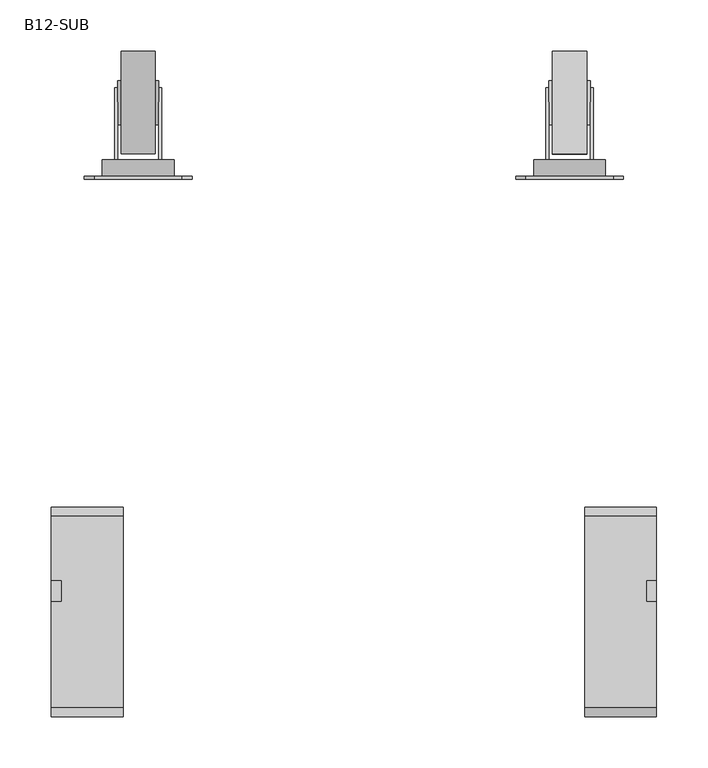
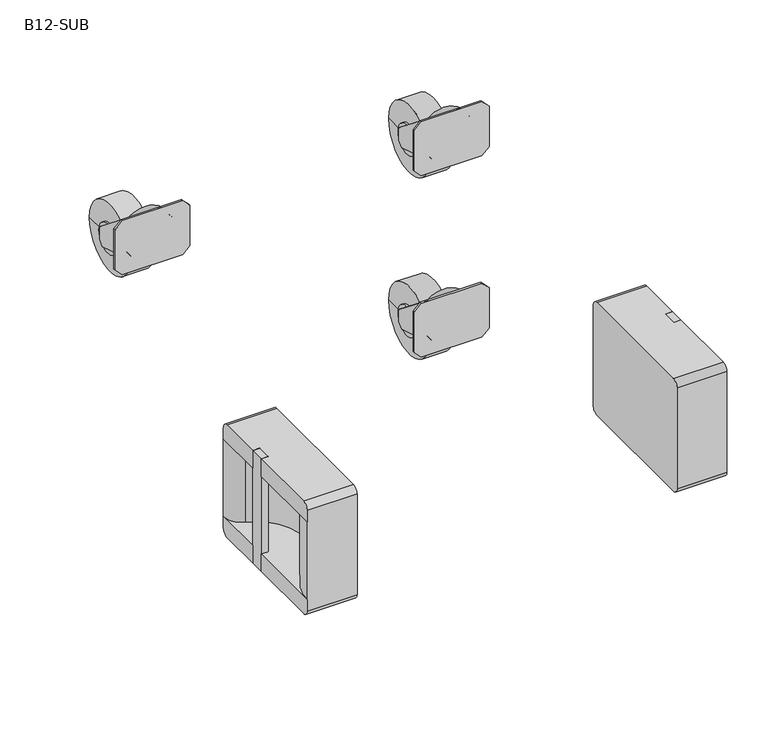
"""IFC4 building model written with IfcOpenShell, lengths in millimetres: proxy geometry, d&b B12-SUB : B12-SUB."""

from ifc_helpers import new_model, si_unit, frame, origin, place, context, project, spatial, polyline, circle_curve, outline, extrude, source, transform, mapped, element, save
from ifc_brep_helpers import plane_surface, cylinder_surface, revolved_surface, advanced_brep


def b12_sub_ed2cee65(model_context):
    return source(origin(), model_context, "Body", "SolidModel", [
        advanced_brep(
        [(2745.3228617, 655.2505973, 364.999962), (2733.3228617, 655.2505973, 338.6181501), (2733.3228617, 655.2505973, 391.0781491), (2730.3228617, 655.2505973, 391.0781491), (2730.3228617, 655.2505973, 336.2771488), (2690.3228617, 655.2505973, 336.2771488), (2690.3228617, 655.2505973, 391.0781491), (2687.3228617, 655.2505973, 391.0781491), (2687.3228617, 655.2505973, 338.6181501), (2675.3228617, 655.2505973, 364.999962), (2675.3228617, 639.2505973, 364.999962), (2687.3228617, 639.2505973, 338.6181501), (2687.3228617, 639.2505973, 330.17524), (2690.3228617, 639.2505973, 330.17524), (2690.3228617, 639.2505973, 336.2771488), (2730.3228617, 639.2505973, 336.2771488), (2730.3228617, 639.2505973, 330.17524), (2733.3228617, 639.2505973, 330.17524), (2733.3228617, 639.2505973, 338.6181501), (2745.3228617, 639.2505973, 364.999962), (2733.3228617, 653.9505973, 330.17524), (2733.3228617, 718.4505973, 309.999962), (2733.3228617, 725.4505973, 316.999962), (2733.3228617, 725.4505973, 335.1264244), (2730.3228617, 725.4505973, 335.1264244), (2730.3228617, 725.4505973, 316.999962), (2730.3228617, 718.4505973, 309.999962), (2730.3228617, 653.9505973, 330.17524), (2687.3228617, 725.4505973, 335.1264244), (2687.3228617, 725.4505973, 316.999962), (2687.3228617, 718.4505973, 309.999962), (2687.3228617, 653.9505973, 330.17524), (2690.3228617, 653.9505973, 330.17524), (2690.3228617, 718.4505973, 309.999962), (2690.3228617, 725.4505973, 316.999962), (2690.3228617, 725.4505973, 335.1264244)],
        [
            (0, 1, circle_curve(frame((2710.3228617, 655.2505973, 364.999962), z_axis=(0.0, 1.0, 0.0), x_axis=(1.0, 0.0, 0.0)), 35.0)),
            (1, 2),
            (2, 3),
            (3, 4),
            (4, 5, circle_curve(frame((2710.3228617, 655.2505973, 364.999962), z_axis=(0.0, 1.0, 0.0), x_axis=(1.0, 0.0, 0.0)), 35.0)),
            (5, 6),
            (6, 7),
            (7, 8),
            (8, 9, circle_curve(frame((2710.3228617, 655.2505973, 364.999962), z_axis=(0.0, 1.0, 0.0), x_axis=(1.0, 0.0, 0.0)), 35.0)),
            (9, 0, circle_curve(frame((2710.3228617, 655.2505973, 364.999962), z_axis=(0.0, 1.0, 0.0), x_axis=(1.0, 0.0, 0.0)), 35.0)),
            (10, 11, circle_curve(frame((2710.3228617, 639.2505973, 364.999962), z_axis=(0.0, -1.0, 0.0), x_axis=(1.0, 0.0, 0.0)), 35.0)),
            (11, 12),
            (12, 13),
            (13, 14),
            (14, 15, circle_curve(frame((2710.3228617, 639.2505973, 364.999962), z_axis=(0.0, -1.0, 0.0), x_axis=(1.0, 0.0, 0.0)), 35.0)),
            (15, 16),
            (16, 17),
            (17, 18),
            (18, 19, circle_curve(frame((2710.3228617, 639.2505973, 364.999962), z_axis=(0.0, -1.0, 0.0), x_axis=(1.0, 0.0, 0.0)), 35.0)),
            (19, 10, circle_curve(frame((2710.3228617, 639.2505973, 364.999962), z_axis=(0.0, -1.0, 0.0), x_axis=(1.0, 0.0, 0.0)), 35.0)),
            (8, 11),
            (10, 9),
            (14, 5),
            (4, 15),
            (18, 1),
            (0, 19),
            (17, 20),
            (20, 21),
            (21, 22),
            (22, 23),
            (23, 2),
            (3, 24),
            (24, 25),
            (25, 26),
            (26, 27),
            (27, 16),
            (23, 24),
            (22, 25),
            (21, 26),
            (20, 27),
            (7, 28),
            (28, 29),
            (29, 30),
            (30, 31),
            (31, 12),
            (13, 32),
            (32, 33),
            (33, 34),
            (34, 35),
            (35, 6),
            (35, 28),
            (34, 29),
            (33, 30),
            (32, 31),
        ],
        [
            plane_surface(frame((2745.3228617, 655.2505973, 364.999962), z_axis=(0.0, 1.0, 0.0), x_axis=(0.0, 0.0, 1.0))),
            plane_surface(frame((2745.3228617, 639.2505973, 364.999962), z_axis=(0.0, -1.0, 0.0), x_axis=(0.0, 0.0, -1.0))),
            cylinder_surface(frame((2710.3228617, 639.2505973, 364.999962), z_axis=(0.0, 1.0, 0.0), x_axis=(1.0, 0.0, 0.0)), 35.0),
            plane_surface(frame((2733.3228617, 709.1202866, 348.1422228), z_axis=(1.0000000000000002, 0.0, 0.0), x_axis=(0.0, 0.7819992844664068, -0.6232793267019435))),
            plane_surface(frame((2730.3228617, 709.1202866, 348.1422228), z_axis=(-1.0000000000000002, 0.0, 0.0), x_axis=(0.0, -0.7819992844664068, 0.6232793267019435))),
            plane_surface(frame((2733.3228617, 655.2505973, 391.0781491), z_axis=(0.0, 0.6232793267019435, 0.7819992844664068), x_axis=(-1.0, 0.0, 0.0))),
            plane_surface(frame((2733.3228617, 725.4505973, 335.1264244), z_axis=(0.0, 1.0, 0.0), x_axis=(-1.0, 0.0, 0.0))),
            plane_surface(frame((2733.3228617, 725.4505973, 316.999962), z_axis=(0.0, 0.7071067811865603, -0.7071067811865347), x_axis=(-1.0, 0.0, 0.0))),
            plane_surface(frame((2733.3228617, 718.4505973, 309.999962), z_axis=(0.0, -0.29853148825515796, -0.9543997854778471), x_axis=(-1.0, 0.0, 0.0))),
            plane_surface(frame((2733.3228617, 653.9505973, 330.17524), z_axis=(0.0, 0.0, -1.0), x_axis=(-1.0, 0.0, 0.0))),
            plane_surface(frame((2687.3228617, 655.2505973, 391.0781491), z_axis=(-1.0, 0.0, 0.0), x_axis=(0.0, -1.0, 0.0))),
            plane_surface(frame((2690.3228617, 655.2505973, 391.0781491), z_axis=(1.0, 0.0, 0.0), x_axis=(0.0, 1.0, 0.0))),
            plane_surface(frame((2687.3228617, 725.4505973, 335.1264244), z_axis=(0.0, 0.6232793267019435, 0.7819992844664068), x_axis=(1.0, 0.0, 0.0))),
            plane_surface(frame((2687.3228617, 725.4505973, 316.999962), z_axis=(0.0, 1.0, 0.0), x_axis=(1.0, 0.0, 0.0))),
            plane_surface(frame((2687.3228617, 718.4505973, 309.999962), z_axis=(0.0, 0.7071067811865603, -0.7071067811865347), x_axis=(1.0, 0.0, 0.0))),
            plane_surface(frame((2687.3228617, 653.9505973, 330.17524), z_axis=(0.0, -0.29853148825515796, -0.9543997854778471), x_axis=(1.0, 0.0, 0.0))),
            plane_surface(frame((2687.3228617, 639.2505973, 330.17524), z_axis=(0.0, 0.0, -1.0), x_axis=(1.0, 0.0, 0.0))),
        ],
        [
            (0, [[1, 2, 3, 4, 5, 6, 7, 8, 9, 10]]),
            (1, [[11, 12, 13, 14, 15, 16, 17, 18, 19, 20]]),
            (2, [[-9, 21, -11, 22]]),
            (2, [[-15, 23, -5, 24]]),
            (2, [[-19, 25, -1, 26]]),
            (2, [[-22, -20, -26, -10]]),
            (3, [[-2, -25, -18, 27, 28, 29, 30, 31]]),
            (4, [[-16, -24, -4, 32, 33, 34, 35, 36]]),
            (5, [[37, -32, -3, -31]]),
            (6, [[38, -33, -37, -30]]),
            (7, [[39, -34, -38, -29]]),
            (8, [[40, -35, -39, -28]]),
            (9, [[-17, -36, -40, -27]]),
            (10, [[-12, -21, -8, 41, 42, 43, 44, 45]]),
            (11, [[-6, -23, -14, 46, 47, 48, 49, 50]]),
            (12, [[-7, -50, 51, -41]]),
            (13, [[-51, -49, 52, -42]]),
            (14, [[-52, -48, 53, -43]]),
            (15, [[-53, -47, 54, -44]]),
            (16, [[-54, -46, -13, -45]]),
        ],
    ),
        extrude(outline(polyline([(405.0, 2667.8228997), (394.999962, 2657.8228617), (334.999962, 2657.8228617), (324.999924, 2667.8228997), (324.999924, 2752.8228237), (334.999962, 2762.8228617), (394.999962, 2762.8228617), (405.0, 2752.8228237), (405.0, 2667.8228997)])), frame((0.0, 636.2505973, 0.0), z_axis=(0.0, 1.0, 0.0), x_axis=(0.0, 0.0, 1.0)), (0.0, 0.0, 1.0), 3.0),
        advanced_brep(
        [(2726.9996195, 660.9067763, 325.4678867), (2693.6461039, 660.9067763, 325.4678867), (2693.6461039, 760.9067763, 325.4678867), (2726.9996195, 760.9067763, 325.4678867), (2726.9996195, 689.493179, 325.4678867), (2726.9996195, 732.3203735, 325.4678867), (2730.3228617, 689.493179, 325.4678867), (2730.3228617, 732.3203735, 325.4678867), (2730.3228617, 710.9067763, 325.4678867), (2690.3228617, 689.493179, 325.4678867), (2690.3228617, 710.9067763, 325.4678867), (2690.3228617, 732.3203735, 325.4678867), (2693.6461039, 689.493179, 325.4678867), (2693.6461039, 732.3203735, 325.4678867)],
        [
            (0, 1),
            (1, 2, circle_curve(frame((2693.6461039, 710.9067763, 325.4678867), z_axis=(1.0, 0.0, 0.0), x_axis=(0.0, 1.0, 0.0)), 50.0)),
            (2, 3),
            (3, 0, circle_curve(frame((2726.9996195, 710.9067763, 325.4678867), z_axis=(-1.0, 0.0, 0.0), x_axis=(0.0, 1.0, 0.0)), 50.0)),
            (2, 1, circle_curve(frame((2693.6461039, 710.9067763, 325.4678867), z_axis=(1.0, 0.0, 0.0), x_axis=(0.0, 1.0, 0.0)), 50.0)),
            (0, 3, circle_curve(frame((2726.9996195, 710.9067763, 325.4678867), z_axis=(-1.0, 0.0, 0.0), x_axis=(0.0, 1.0, 0.0)), 50.0)),
            (4, 0),
            (3, 5),
            (5, 4, circle_curve(frame((2726.9996195, 710.9067763, 325.4678867), z_axis=(-1.0, 0.0, 0.0), x_axis=(0.0, 1.0, 0.0)), 21.4135972)),
            (4, 5, circle_curve(frame((2726.9996195, 710.9067763, 325.4678867), z_axis=(-1.0, 0.0, 0.0), x_axis=(0.0, 1.0, 0.0)), 21.4135972)),
            (6, 4),
            (5, 7),
            (7, 6, circle_curve(frame((2730.3228617, 710.9067763, 325.4678867), z_axis=(-1.0, 0.0, 0.0), x_axis=(0.0, 1.0, 0.0)), 21.4135972)),
            (6, 7, circle_curve(frame((2730.3228617, 710.9067763, 325.4678867), z_axis=(-1.0, 0.0, 0.0), x_axis=(0.0, 1.0, 0.0)), 21.4135972)),
            (8, 6),
            (7, 8),
            (9, 10),
            (10, 11),
            (11, 9, circle_curve(frame((2690.3228617, 710.9067763, 325.4678867), z_axis=(-1.0, 0.0, 0.0), x_axis=(0.0, 1.0, 0.0)), 21.4135972)),
            (9, 11, circle_curve(frame((2690.3228617, 710.9067763, 325.4678867), z_axis=(-1.0, 0.0, 0.0), x_axis=(0.0, 1.0, 0.0)), 21.4135972)),
            (12, 9),
            (11, 13),
            (13, 12, circle_curve(frame((2693.6461039, 710.9067763, 325.4678867), z_axis=(-1.0, 0.0, 0.0), x_axis=(0.0, 1.0, 0.0)), 21.4135972)),
            (12, 13, circle_curve(frame((2693.6461039, 710.9067763, 325.4678867), z_axis=(-1.0, 0.0, 0.0), x_axis=(0.0, 1.0, 0.0)), 21.4135972)),
            (1, 12),
            (13, 2),
        ],
        [
            cylinder_surface(frame((2753.2661159, 710.9067763, 325.4678867), z_axis=(1.0, 0.0, 0.0), x_axis=(0.0, 1.0, 0.0)), 50.0),
            plane_surface(frame((2726.9996195, 710.9067763, 325.4678867), z_axis=(1.0, 0.0, 0.0), x_axis=(0.0, 1.0, 0.0))),
            cylinder_surface(frame((2753.2661159, 710.9067763, 325.4678867), z_axis=(1.0, 0.0, 0.0), x_axis=(0.0, 1.0, 0.0)), 21.4135972),
            plane_surface(frame((2730.3228617, 710.9067763, 325.4678867), z_axis=(1.0, 0.0, 0.0), x_axis=(0.0, 1.0, 0.0))),
            plane_surface(frame((2690.3228617, 710.9067763, 325.4678867), z_axis=(-1.0, 0.0, 0.0), x_axis=(0.0, 1.0, 0.0))),
            plane_surface(frame((2693.6461039, 710.9067763, 325.4678867), z_axis=(-1.0, 0.0, 0.0), x_axis=(0.0, 1.0, 0.0))),
        ],
        [
            (0, [[1, 2, 3, 4]]),
            (0, [[-3, 5, -1, 6]]),
            (1, [[7, -4, 8, 9]]),
            (1, [[-8, -6, -7, 10]]),
            (2, [[11, -9, 12, 13]]),
            (2, [[-12, -10, -11, 14]]),
            (3, [[15, -13, 16]]),
            (3, [[-16, -14, -15]]),
            (4, [[17, 18, 19]]),
            (4, [[-18, -17, 20]]),
            (2, [[21, -19, 22, 23]]),
            (2, [[-22, -20, -21, 24]]),
            (5, [[25, -23, 26, -2]]),
            (5, [[-26, -24, -25, -5]]),
        ],
    ),
        advanced_brep(
        [(2745.3228617, 655.2505973, 94.999962), (2733.3228617, 655.2505973, 68.6181501), (2733.3228617, 655.2505973, 121.0781491), (2730.3228617, 655.2505973, 121.0781491), (2730.3228617, 655.2505973, 66.2771488), (2690.3228617, 655.2505973, 66.2771488), (2690.3228617, 655.2505973, 121.0781491), (2687.3228617, 655.2505973, 121.0781491), (2687.3228617, 655.2505973, 68.6181501), (2675.3228617, 655.2505973, 94.999962), (2675.3228617, 639.2505973, 94.999962), (2687.3228617, 639.2505973, 68.6181501), (2687.3228617, 639.2505973, 60.17524), (2690.3228617, 639.2505973, 60.17524), (2690.3228617, 639.2505973, 66.2771488), (2730.3228617, 639.2505973, 66.2771488), (2730.3228617, 639.2505973, 60.17524), (2733.3228617, 639.2505973, 60.17524), (2733.3228617, 639.2505973, 68.6181501), (2745.3228617, 639.2505973, 94.999962), (2733.3228617, 653.9505973, 60.17524), (2733.3228617, 718.4505973, 39.999962), (2733.3228617, 725.4505973, 46.999962), (2733.3228617, 725.4505973, 65.1264244), (2730.3228617, 725.4505973, 65.1264244), (2730.3228617, 725.4505973, 46.999962), (2730.3228617, 718.4505973, 39.999962), (2730.3228617, 653.9505973, 60.17524), (2687.3228617, 725.4505973, 65.1264244), (2687.3228617, 725.4505973, 46.999962), (2687.3228617, 718.4505973, 39.999962), (2687.3228617, 653.9505973, 60.17524), (2690.3228617, 653.9505973, 60.17524), (2690.3228617, 718.4505973, 39.999962), (2690.3228617, 725.4505973, 46.999962), (2690.3228617, 725.4505973, 65.1264244)],
        [
            (0, 1, circle_curve(frame((2710.3228617, 655.2505973, 94.999962), z_axis=(0.0, 1.0, 0.0), x_axis=(1.0, 0.0, 0.0)), 35.0)),
            (1, 2),
            (2, 3),
            (3, 4),
            (4, 5, circle_curve(frame((2710.3228617, 655.2505973, 94.999962), z_axis=(0.0, 1.0, 0.0), x_axis=(1.0, 0.0, 0.0)), 35.0)),
            (5, 6),
            (6, 7),
            (7, 8),
            (8, 9, circle_curve(frame((2710.3228617, 655.2505973, 94.999962), z_axis=(0.0, 1.0, 0.0), x_axis=(1.0, 0.0, 0.0)), 35.0)),
            (9, 0, circle_curve(frame((2710.3228617, 655.2505973, 94.999962), z_axis=(0.0, 1.0, 0.0), x_axis=(1.0, 0.0, 0.0)), 35.0)),
            (10, 11, circle_curve(frame((2710.3228617, 639.2505973, 94.999962), z_axis=(0.0, -1.0, 0.0), x_axis=(1.0, 0.0, 0.0)), 35.0)),
            (11, 12),
            (12, 13),
            (13, 14),
            (14, 15, circle_curve(frame((2710.3228617, 639.2505973, 94.999962), z_axis=(0.0, -1.0, 0.0), x_axis=(1.0, 0.0, 0.0)), 35.0)),
            (15, 16),
            (16, 17),
            (17, 18),
            (18, 19, circle_curve(frame((2710.3228617, 639.2505973, 94.999962), z_axis=(0.0, -1.0, 0.0), x_axis=(1.0, 0.0, 0.0)), 35.0)),
            (19, 10, circle_curve(frame((2710.3228617, 639.2505973, 94.999962), z_axis=(0.0, -1.0, 0.0), x_axis=(1.0, 0.0, 0.0)), 35.0)),
            (8, 11),
            (10, 9),
            (14, 5),
            (4, 15),
            (18, 1),
            (0, 19),
            (17, 20),
            (20, 21),
            (21, 22),
            (22, 23),
            (23, 2),
            (3, 24),
            (24, 25),
            (25, 26),
            (26, 27),
            (27, 16),
            (23, 24),
            (22, 25),
            (21, 26),
            (20, 27),
            (7, 28),
            (28, 29),
            (29, 30),
            (30, 31),
            (31, 12),
            (13, 32),
            (32, 33),
            (33, 34),
            (34, 35),
            (35, 6),
            (35, 28),
            (34, 29),
            (33, 30),
            (32, 31),
        ],
        [
            plane_surface(frame((2745.3228617, 655.2505973, 94.999962), z_axis=(0.0, 1.0, 0.0), x_axis=(0.0, 0.0, 1.0))),
            plane_surface(frame((2745.3228617, 639.2505973, 94.999962), z_axis=(0.0, -1.0, 0.0), x_axis=(0.0, 0.0, -1.0))),
            cylinder_surface(frame((2710.3228617, 639.2505973, 94.999962), z_axis=(0.0, 1.0, 0.0), x_axis=(1.0, 0.0, 0.0)), 35.0),
            plane_surface(frame((2733.3228617, 709.1202866, 78.1422228), z_axis=(1.0000000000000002, 0.0, 0.0), x_axis=(0.0, 0.7819992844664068, -0.6232793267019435))),
            plane_surface(frame((2730.3228617, 709.1202866, 78.1422228), z_axis=(-1.0000000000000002, 0.0, 0.0), x_axis=(0.0, -0.7819992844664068, 0.6232793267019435))),
            plane_surface(frame((2733.3228617, 655.2505973, 121.0781491), z_axis=(0.0, 0.6232793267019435, 0.7819992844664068), x_axis=(-1.0, 0.0, 0.0))),
            plane_surface(frame((2733.3228617, 725.4505973, 65.1264244), z_axis=(0.0, 1.0, 0.0), x_axis=(-1.0, 0.0, 0.0))),
            plane_surface(frame((2733.3228617, 725.4505973, 46.999962), z_axis=(0.0, 0.7071067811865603, -0.7071067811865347), x_axis=(-1.0, 0.0, 0.0))),
            plane_surface(frame((2733.3228617, 718.4505973, 39.999962), z_axis=(0.0, -0.29853148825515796, -0.9543997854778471), x_axis=(-1.0, 0.0, 0.0))),
            plane_surface(frame((2733.3228617, 653.9505973, 60.17524), z_axis=(0.0, 0.0, -1.0), x_axis=(-1.0, 0.0, 0.0))),
            plane_surface(frame((2687.3228617, 655.2505973, 121.0781491), z_axis=(-1.0, 0.0, 0.0), x_axis=(0.0, -1.0, 0.0))),
            plane_surface(frame((2690.3228617, 655.2505973, 121.0781491), z_axis=(1.0, 0.0, 0.0), x_axis=(0.0, 1.0, 0.0))),
            plane_surface(frame((2687.3228617, 725.4505973, 65.1264244), z_axis=(0.0, 0.6232793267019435, 0.7819992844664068), x_axis=(1.0, 0.0, 0.0))),
            plane_surface(frame((2687.3228617, 725.4505973, 46.999962), z_axis=(0.0, 1.0, 0.0), x_axis=(1.0, 0.0, 0.0))),
            plane_surface(frame((2687.3228617, 718.4505973, 39.999962), z_axis=(0.0, 0.7071067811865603, -0.7071067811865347), x_axis=(1.0, 0.0, 0.0))),
            plane_surface(frame((2687.3228617, 653.9505973, 60.17524), z_axis=(0.0, -0.29853148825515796, -0.9543997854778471), x_axis=(1.0, 0.0, 0.0))),
            plane_surface(frame((2687.3228617, 639.2505973, 60.17524), z_axis=(0.0, 0.0, -1.0), x_axis=(1.0, 0.0, 0.0))),
        ],
        [
            (0, [[1, 2, 3, 4, 5, 6, 7, 8, 9, 10]]),
            (1, [[11, 12, 13, 14, 15, 16, 17, 18, 19, 20]]),
            (2, [[-9, 21, -11, 22]]),
            (2, [[-15, 23, -5, 24]]),
            (2, [[-19, 25, -1, 26]]),
            (2, [[-22, -20, -26, -10]]),
            (3, [[-2, -25, -18, 27, 28, 29, 30, 31]]),
            (4, [[-16, -24, -4, 32, 33, 34, 35, 36]]),
            (5, [[37, -32, -3, -31]]),
            (6, [[38, -33, -37, -30]]),
            (7, [[39, -34, -38, -29]]),
            (8, [[40, -35, -39, -28]]),
            (9, [[-17, -36, -40, -27]]),
            (10, [[-12, -21, -8, 41, 42, 43, 44, 45]]),
            (11, [[-6, -23, -14, 46, 47, 48, 49, 50]]),
            (12, [[-7, -50, 51, -41]]),
            (13, [[-51, -49, 52, -42]]),
            (14, [[-52, -48, 53, -43]]),
            (15, [[-53, -47, 54, -44]]),
            (16, [[-54, -46, -13, -45]]),
        ],
    ),
        extrude(outline(polyline([(135.0, 2667.8228997), (124.999962, 2657.8228617), (64.999962, 2657.8228617), (54.999924, 2667.8228997), (54.999924, 2752.8228237), (64.999962, 2762.8228617), (124.999962, 2762.8228617), (135.0, 2752.8228237), (135.0, 2667.8228997)])), frame((0.0, 636.2505973, 0.0), z_axis=(0.0, 1.0, 0.0), x_axis=(0.0, 0.0, 1.0)), (0.0, 0.0, 1.0), 3.0),
        advanced_brep(
        [(2726.9996195, 660.9067763, 55.4678867), (2693.6461039, 660.9067763, 55.4678867), (2693.6461039, 760.9067763, 55.4678867), (2726.9996195, 760.9067763, 55.4678867), (2726.9996195, 689.493179, 55.4678867), (2726.9996195, 732.3203735, 55.4678867), (2730.3228617, 689.493179, 55.4678867), (2730.3228617, 732.3203735, 55.4678867), (2730.3228617, 710.9067763, 55.4678867), (2690.3228617, 689.493179, 55.4678867), (2690.3228617, 710.9067763, 55.4678867), (2690.3228617, 732.3203735, 55.4678867), (2693.6461039, 689.493179, 55.4678867), (2693.6461039, 732.3203735, 55.4678867)],
        [
            (0, 1),
            (1, 2, circle_curve(frame((2693.6461039, 710.9067763, 55.4678867), z_axis=(1.0, 0.0, 0.0), x_axis=(0.0, 1.0, 0.0)), 50.0)),
            (2, 3),
            (3, 0, circle_curve(frame((2726.9996195, 710.9067763, 55.4678867), z_axis=(-1.0, 0.0, 0.0), x_axis=(0.0, 1.0, 0.0)), 50.0)),
            (2, 1, circle_curve(frame((2693.6461039, 710.9067763, 55.4678867), z_axis=(1.0, 0.0, 0.0), x_axis=(0.0, 1.0, 0.0)), 50.0)),
            (0, 3, circle_curve(frame((2726.9996195, 710.9067763, 55.4678867), z_axis=(-1.0, 0.0, 0.0), x_axis=(0.0, 1.0, 0.0)), 50.0)),
            (4, 0),
            (3, 5),
            (5, 4, circle_curve(frame((2726.9996195, 710.9067763, 55.4678867), z_axis=(-1.0, 0.0, 0.0), x_axis=(0.0, 1.0, 0.0)), 21.4135972)),
            (4, 5, circle_curve(frame((2726.9996195, 710.9067763, 55.4678867), z_axis=(-1.0, 0.0, 0.0), x_axis=(0.0, 1.0, 0.0)), 21.4135972)),
            (6, 4),
            (5, 7),
            (7, 6, circle_curve(frame((2730.3228617, 710.9067763, 55.4678867), z_axis=(-1.0, 0.0, 0.0), x_axis=(0.0, 1.0, 0.0)), 21.4135972)),
            (6, 7, circle_curve(frame((2730.3228617, 710.9067763, 55.4678867), z_axis=(-1.0, 0.0, 0.0), x_axis=(0.0, 1.0, 0.0)), 21.4135972)),
            (8, 6),
            (7, 8),
            (9, 10),
            (10, 11),
            (11, 9, circle_curve(frame((2690.3228617, 710.9067763, 55.4678867), z_axis=(-1.0, 0.0, 0.0), x_axis=(0.0, 1.0, 0.0)), 21.4135972)),
            (9, 11, circle_curve(frame((2690.3228617, 710.9067763, 55.4678867), z_axis=(-1.0, 0.0, 0.0), x_axis=(0.0, 1.0, 0.0)), 21.4135972)),
            (12, 9),
            (11, 13),
            (13, 12, circle_curve(frame((2693.6461039, 710.9067763, 55.4678867), z_axis=(-1.0, 0.0, 0.0), x_axis=(0.0, 1.0, 0.0)), 21.4135972)),
            (12, 13, circle_curve(frame((2693.6461039, 710.9067763, 55.4678867), z_axis=(-1.0, 0.0, 0.0), x_axis=(0.0, 1.0, 0.0)), 21.4135972)),
            (1, 12),
            (13, 2),
        ],
        [
            cylinder_surface(frame((2753.2661159, 710.9067763, 55.4678867), z_axis=(1.0, 0.0, 0.0), x_axis=(0.0, 1.0, 0.0)), 50.0),
            plane_surface(frame((2726.9996195, 710.9067763, 55.4678867), z_axis=(1.0, 0.0, 0.0), x_axis=(0.0, 1.0, 0.0))),
            cylinder_surface(frame((2753.2661159, 710.9067763, 55.4678867), z_axis=(1.0, 0.0, 0.0), x_axis=(0.0, 1.0, 0.0)), 21.4135972),
            plane_surface(frame((2730.3228617, 710.9067763, 55.4678867), z_axis=(1.0, 0.0, 0.0), x_axis=(0.0, 1.0, 0.0))),
            plane_surface(frame((2690.3228617, 710.9067763, 55.4678867), z_axis=(-1.0, 0.0, 0.0), x_axis=(0.0, 1.0, 0.0))),
            plane_surface(frame((2693.6461039, 710.9067763, 55.4678867), z_axis=(-1.0, 0.0, 0.0), x_axis=(0.0, 1.0, 0.0))),
        ],
        [
            (0, [[1, 2, 3, 4]]),
            (0, [[-3, 5, -1, 6]]),
            (1, [[7, -4, 8, 9]]),
            (1, [[-8, -6, -7, 10]]),
            (2, [[11, -9, 12, 13]]),
            (2, [[-12, -10, -11, 14]]),
            (3, [[15, -13, 16]]),
            (3, [[-16, -14, -15]]),
            (4, [[17, 18, 19]]),
            (4, [[-18, -17, 20]]),
            (2, [[21, -19, 22, 23]]),
            (2, [[-22, -20, -21, 24]]),
            (5, [[25, -23, 26, -2]]),
            (5, [[-26, -24, -25, -5]]),
        ],
    ),
        advanced_brep(
        [(2254.6771383, 655.2505973, 364.999962), (2324.6771383, 655.2505973, 364.999962), (2312.6771383, 655.2505973, 338.6181501), (2312.6771383, 655.2505973, 391.0781491), (2309.6771383, 655.2505973, 391.0781491), (2309.6771383, 655.2505973, 336.2771488), (2269.6771383, 655.2505973, 336.2771488), (2269.6771383, 655.2505973, 391.0781491), (2266.6771383, 655.2505973, 391.0781491), (2266.6771383, 655.2505973, 338.6181501), (2324.6771383, 639.2505973, 364.999962), (2254.6771383, 639.2505973, 364.999962), (2266.6771383, 639.2505973, 338.6181501), (2266.6771383, 639.2505973, 330.17524), (2269.6771383, 639.2505973, 330.17524), (2269.6771383, 639.2505973, 336.2771488), (2309.6771383, 639.2505973, 336.2771488), (2309.6771383, 639.2505973, 330.17524), (2312.6771383, 639.2505973, 330.17524), (2312.6771383, 639.2505973, 338.6181501), (2266.6771383, 725.4505973, 335.1264244), (2266.6771383, 725.4505973, 316.999962), (2266.6771383, 718.4505973, 309.999962), (2266.6771383, 653.9505973, 330.17524), (2269.6771383, 653.9505973, 330.17524), (2269.6771383, 718.4505973, 309.999962), (2269.6771383, 725.4505973, 316.999962), (2269.6771383, 725.4505973, 335.1264244), (2312.6771383, 653.9505973, 330.17524), (2312.6771383, 718.4505973, 309.999962), (2312.6771383, 725.4505973, 316.999962), (2312.6771383, 725.4505973, 335.1264244), (2309.6771383, 725.4505973, 335.1264244), (2309.6771383, 725.4505973, 316.999962), (2309.6771383, 718.4505973, 309.999962), (2309.6771383, 653.9505973, 330.17524)],
        [
            (0, 1, circle_curve(frame((2289.6771383, 655.2505973, 364.999962), z_axis=(0.0, 1.0, 0.0), x_axis=(-1.0, 0.0, 0.0)), 35.0)),
            (1, 2, circle_curve(frame((2289.6771383, 655.2505973, 364.999962), z_axis=(0.0, 1.0, 0.0), x_axis=(-1.0, 0.0, 0.0)), 35.0)),
            (2, 3),
            (3, 4),
            (4, 5),
            (5, 6, circle_curve(frame((2289.6771383, 655.2505973, 364.999962), z_axis=(0.0, 1.0, 0.0), x_axis=(-1.0, 0.0, 0.0)), 35.0)),
            (6, 7),
            (7, 8),
            (8, 9),
            (9, 0, circle_curve(frame((2289.6771383, 655.2505973, 364.999962), z_axis=(0.0, 1.0, 0.0), x_axis=(-1.0, 0.0, 0.0)), 35.0)),
            (10, 11, circle_curve(frame((2289.6771383, 639.2505973, 364.999962), z_axis=(0.0, -1.0, 0.0), x_axis=(-1.0, 0.0, 0.0)), 35.0)),
            (11, 12, circle_curve(frame((2289.6771383, 639.2505973, 364.999962), z_axis=(0.0, -1.0, 0.0), x_axis=(-1.0, 0.0, 0.0)), 35.0)),
            (12, 13),
            (13, 14),
            (14, 15),
            (15, 16, circle_curve(frame((2289.6771383, 639.2505973, 364.999962), z_axis=(0.0, -1.0, 0.0), x_axis=(-1.0, 0.0, 0.0)), 35.0)),
            (16, 17),
            (17, 18),
            (18, 19),
            (19, 10, circle_curve(frame((2289.6771383, 639.2505973, 364.999962), z_axis=(0.0, -1.0, 0.0), x_axis=(-1.0, 0.0, 0.0)), 35.0)),
            (1, 10),
            (19, 2),
            (15, 6),
            (5, 16),
            (11, 0),
            (9, 12),
            (8, 20),
            (20, 21),
            (21, 22),
            (22, 23),
            (23, 13),
            (14, 24),
            (24, 25),
            (25, 26),
            (26, 27),
            (27, 7),
            (27, 20),
            (26, 21),
            (25, 22),
            (24, 23),
            (18, 28),
            (28, 29),
            (29, 30),
            (30, 31),
            (31, 3),
            (4, 32),
            (32, 33),
            (33, 34),
            (34, 35),
            (35, 17),
            (31, 32),
            (30, 33),
            (29, 34),
            (28, 35),
        ],
        [
            plane_surface(frame((2254.6771383, 655.2505973, 364.999962), z_axis=(0.0, 1.0, 0.0), x_axis=(0.0, 0.0, 1.0))),
            plane_surface(frame((2254.6771383, 639.2505973, 364.999962), z_axis=(0.0, -1.0, 0.0), x_axis=(0.0, 0.0, -1.0))),
            cylinder_surface(frame((2289.6771383, 639.2505973, 364.999962), z_axis=(0.0, 1.0, 0.0), x_axis=(-1.0, 0.0, 0.0)), 35.0),
            plane_surface(frame((2266.6771383, 709.1202866, 348.1422228), z_axis=(-1.0000000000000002, 0.0, 0.0), x_axis=(0.0, 0.7819992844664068, -0.6232793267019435))),
            plane_surface(frame((2269.6771383, 709.1202866, 348.1422228), z_axis=(1.0000000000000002, 0.0, 0.0), x_axis=(0.0, -0.7819992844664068, 0.6232793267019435))),
            plane_surface(frame((2266.6771383, 655.2505973, 391.0781491), z_axis=(0.0, 0.6232793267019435, 0.7819992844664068), x_axis=(1.0, 0.0, 0.0))),
            plane_surface(frame((2266.6771383, 725.4505973, 335.1264244), z_axis=(0.0, 1.0, 0.0), x_axis=(1.0, 0.0, 0.0))),
            plane_surface(frame((2266.6771383, 725.4505973, 316.999962), z_axis=(0.0, 0.7071067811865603, -0.7071067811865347), x_axis=(1.0, 0.0, 0.0))),
            plane_surface(frame((2266.6771383, 718.4505973, 309.999962), z_axis=(0.0, -0.29853148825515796, -0.9543997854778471), x_axis=(1.0, 0.0, 0.0))),
            plane_surface(frame((2266.6771383, 653.9505973, 330.17524), z_axis=(0.0, 0.0, -1.0), x_axis=(1.0, 0.0, 0.0))),
            plane_surface(frame((2312.6771383, 655.2505973, 391.0781491), z_axis=(1.0, 0.0, 0.0), x_axis=(0.0, -1.0, 0.0))),
            plane_surface(frame((2309.6771383, 655.2505973, 391.0781491), z_axis=(-1.0, 0.0, 0.0), x_axis=(0.0, 1.0, 0.0))),
            plane_surface(frame((2312.6771383, 725.4505973, 335.1264244), z_axis=(0.0, 0.6232793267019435, 0.7819992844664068), x_axis=(-1.0, 0.0, 0.0))),
            plane_surface(frame((2312.6771383, 725.4505973, 316.999962), z_axis=(0.0, 1.0, 0.0), x_axis=(-1.0, 0.0, 0.0))),
            plane_surface(frame((2312.6771383, 718.4505973, 309.999962), z_axis=(0.0, 0.7071067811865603, -0.7071067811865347), x_axis=(-1.0, 0.0, 0.0))),
            plane_surface(frame((2312.6771383, 653.9505973, 330.17524), z_axis=(0.0, -0.29853148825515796, -0.9543997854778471), x_axis=(-1.0, 0.0, 0.0))),
            plane_surface(frame((2312.6771383, 639.2505973, 330.17524), z_axis=(0.0, 0.0, -1.0), x_axis=(-1.0, 0.0, 0.0))),
        ],
        [
            (0, [[1, 2, 3, 4, 5, 6, 7, 8, 9, 10]]),
            (1, [[11, 12, 13, 14, 15, 16, 17, 18, 19, 20]]),
            (2, [[21, -20, 22, -2]]),
            (2, [[23, -6, 24, -16]]),
            (2, [[25, -10, 26, -12]]),
            (2, [[-1, -25, -11, -21]]),
            (3, [[27, 28, 29, 30, 31, -13, -26, -9]]),
            (4, [[32, 33, 34, 35, 36, -7, -23, -15]]),
            (5, [[-27, -8, -36, 37]]),
            (6, [[-28, -37, -35, 38]]),
            (7, [[-29, -38, -34, 39]]),
            (8, [[-30, -39, -33, 40]]),
            (9, [[-31, -40, -32, -14]]),
            (10, [[41, 42, 43, 44, 45, -3, -22, -19]]),
            (11, [[46, 47, 48, 49, 50, -17, -24, -5]]),
            (12, [[-45, 51, -46, -4]]),
            (13, [[-44, 52, -47, -51]]),
            (14, [[-43, 53, -48, -52]]),
            (15, [[-42, 54, -49, -53]]),
            (16, [[-41, -18, -50, -54]]),
        ],
    ),
        extrude(outline(polyline([(405.0, 2332.1771003), (405.0, 2247.1771763), (394.999962, 2237.1771383), (334.999962, 2237.1771383), (324.999924, 2247.1771763), (324.999924, 2332.1771003), (334.999962, 2342.1771383), (394.999962, 2342.1771383), (405.0, 2332.1771003)])), frame((0.0, 636.2505973, 0.0), z_axis=(0.0, 1.0, 0.0), x_axis=(0.0, 0.0, 1.0)), (0.0, 0.0, 1.0), 3.0),
        advanced_brep(
        [(2273.0003805, 660.9067763, 325.4678867), (2273.0003805, 760.9067763, 325.4678867), (2306.3538961, 760.9067763, 325.4678867), (2306.3538961, 660.9067763, 325.4678867), (2273.0003805, 689.493179, 325.4678867), (2273.0003805, 732.3203735, 325.4678867), (2269.6771383, 689.493179, 325.4678867), (2269.6771383, 732.3203735, 325.4678867), (2269.6771383, 710.9067763, 325.4678867), (2309.6771383, 689.493179, 325.4678867), (2309.6771383, 732.3203735, 325.4678867), (2309.6771383, 710.9067763, 325.4678867), (2306.3538961, 689.493179, 325.4678867), (2306.3538961, 732.3203735, 325.4678867)],
        [
            (0, 1, circle_curve(frame((2273.0003805, 710.9067763, 325.4678867), z_axis=(1.0, 0.0, 0.0), x_axis=(0.0, 1.0, 0.0)), 50.0)),
            (1, 2),
            (2, 3, circle_curve(frame((2306.3538961, 710.9067763, 325.4678867), z_axis=(-1.0, 0.0, 0.0), x_axis=(0.0, 1.0, 0.0)), 50.0)),
            (3, 0),
            (1, 0, circle_curve(frame((2273.0003805, 710.9067763, 325.4678867), z_axis=(1.0, 0.0, 0.0), x_axis=(0.0, 1.0, 0.0)), 50.0)),
            (3, 2, circle_curve(frame((2306.3538961, 710.9067763, 325.4678867), z_axis=(-1.0, 0.0, 0.0), x_axis=(0.0, 1.0, 0.0)), 50.0)),
            (4, 5, circle_curve(frame((2273.0003805, 710.9067763, 325.4678867), z_axis=(1.0, 0.0, 0.0), x_axis=(0.0, 1.0, 0.0)), 21.4135972)),
            (5, 1),
            (0, 4),
            (5, 4, circle_curve(frame((2273.0003805, 710.9067763, 325.4678867), z_axis=(1.0, 0.0, 0.0), x_axis=(0.0, 1.0, 0.0)), 21.4135972)),
            (6, 7, circle_curve(frame((2269.6771383, 710.9067763, 325.4678867), z_axis=(1.0, 0.0, 0.0), x_axis=(0.0, 1.0, 0.0)), 21.4135972)),
            (7, 5),
            (4, 6),
            (7, 6, circle_curve(frame((2269.6771383, 710.9067763, 325.4678867), z_axis=(1.0, 0.0, 0.0), x_axis=(0.0, 1.0, 0.0)), 21.4135972)),
            (8, 7),
            (6, 8),
            (9, 10, circle_curve(frame((2309.6771383, 710.9067763, 325.4678867), z_axis=(1.0, 0.0, 0.0), x_axis=(0.0, 1.0, 0.0)), 21.4135972)),
            (10, 11),
            (11, 9),
            (10, 9, circle_curve(frame((2309.6771383, 710.9067763, 325.4678867), z_axis=(1.0, 0.0, 0.0), x_axis=(0.0, 1.0, 0.0)), 21.4135972)),
            (12, 13, circle_curve(frame((2306.3538961, 710.9067763, 325.4678867), z_axis=(1.0, 0.0, 0.0), x_axis=(0.0, 1.0, 0.0)), 21.4135972)),
            (13, 10),
            (9, 12),
            (13, 12, circle_curve(frame((2306.3538961, 710.9067763, 325.4678867), z_axis=(1.0, 0.0, 0.0), x_axis=(0.0, 1.0, 0.0)), 21.4135972)),
            (2, 13),
            (12, 3),
        ],
        [
            cylinder_surface(frame((2246.7338841, 710.9067763, 325.4678867), z_axis=(-1.0, 0.0, 0.0), x_axis=(0.0, 1.0, 0.0)), 50.0),
            plane_surface(frame((2273.0003805, 710.9067763, 325.4678867), z_axis=(-1.0, 0.0, 0.0), x_axis=(0.0, 1.0, 0.0))),
            cylinder_surface(frame((2246.7338841, 710.9067763, 325.4678867), z_axis=(-1.0, 0.0, 0.0), x_axis=(0.0, 1.0, 0.0)), 21.4135972),
            plane_surface(frame((2269.6771383, 710.9067763, 325.4678867), z_axis=(-1.0, 0.0, 0.0), x_axis=(0.0, 1.0, 0.0))),
            plane_surface(frame((2309.6771383, 710.9067763, 325.4678867), z_axis=(1.0, 0.0, 0.0), x_axis=(0.0, 1.0, 0.0))),
            plane_surface(frame((2306.3538961, 710.9067763, 325.4678867), z_axis=(1.0, 0.0, 0.0), x_axis=(0.0, 1.0, 0.0))),
        ],
        [
            (0, [[1, 2, 3, 4]]),
            (0, [[5, -4, 6, -2]]),
            (1, [[7, 8, -1, 9]]),
            (1, [[10, -9, -5, -8]]),
            (2, [[11, 12, -7, 13]]),
            (2, [[14, -13, -10, -12]]),
            (3, [[15, -11, 16]]),
            (3, [[-16, -14, -15]]),
            (4, [[17, 18, 19]]),
            (4, [[20, -19, -18]]),
            (2, [[21, 22, -17, 23]]),
            (2, [[24, -23, -20, -22]]),
            (5, [[-3, 25, -21, 26]]),
            (5, [[-6, -26, -24, -25]]),
        ],
    ),
        advanced_brep(
        [(2275.0, 112.7505973, 156.7), (2275.0, 121.7505973, 147.7), (2275.0, 307.7505973, 147.7), (2275.0, 316.7505973, 156.7), (2275.0, 316.7505973, 306.2), (2275.0, 307.7505973, 315.2), (2275.0, 121.7505973, 315.2), (2275.0, 112.7505973, 306.2), (2205.0, 316.7505973, 173.7), (2205.0, 316.7505973, 156.7), (2205.0, 307.7505973, 147.7), (2205.0, 245.4484339, 147.7), (2205.0, 245.4484339, 173.7), (2205.0, 112.7505973, 156.7), (2205.0, 112.7505973, 173.7), (2205.0, 224.6043444, 173.7), (2205.0, 224.6043444, 147.7), (2205.0, 121.7505973, 147.7), (2205.0, 112.7505973, 306.2), (2205.0, 121.7505973, 315.2), (2205.0, 224.6043444, 315.2), (2205.0, 224.6043444, 289.2), (2205.0, 112.7505973, 289.2), (2205.0, 316.7505973, 289.2), (2205.0, 245.4484339, 289.2), (2205.0, 245.4484339, 315.2), (2205.0, 307.7505973, 315.2), (2205.0, 316.7505973, 306.2), (2215.0, 224.6043444, 147.7), (2215.0, 245.4484339, 147.7), (2215.0, 224.6043444, 173.7), (2215.0, 245.4484339, 173.7), (2236.2028278, 169.7198126, 173.7), (2221.9361288, 292.8480463, 173.7), (2215.0, 224.6043444, 289.2), (2215.0, 245.4484339, 289.2), (2221.9361288, 292.8480463, 289.2), (2236.2028278, 169.7198126, 289.2), (2215.0, 224.6043444, 315.2), (2215.0, 245.4484339, 315.2)],
        [
            (0, 1, circle_curve(frame((2275.0, 121.7505973, 156.7), z_axis=(1.0, 0.0, 0.0), x_axis=(0.0, 0.0, -1.0)), 9.0)),
            (1, 2),
            (2, 3, circle_curve(frame((2275.0, 307.7505973, 156.7), z_axis=(1.0, 0.0, 0.0), x_axis=(0.0, 0.0, -1.0)), 9.0)),
            (3, 4),
            (4, 5, circle_curve(frame((2275.0, 307.7505973, 306.2), z_axis=(1.0, 0.0, 0.0), x_axis=(0.0, 0.0, 1.0)), 9.0)),
            (5, 6),
            (6, 7, circle_curve(frame((2275.0, 121.7505973, 306.2), z_axis=(1.0, 0.0, 0.0), x_axis=(0.0, 0.0, 1.0)), 9.0)),
            (7, 0),
            (8, 9),
            (9, 10, circle_curve(frame((2205.0, 307.7505973, 156.7), z_axis=(-1.0, 0.0, 0.0), x_axis=(0.0, 0.0, -1.0)), 9.0)),
            (10, 11),
            (11, 12),
            (12, 8),
            (13, 14),
            (14, 15),
            (15, 16),
            (16, 17),
            (17, 13, circle_curve(frame((2205.0, 121.7505973, 156.7), z_axis=(-1.0, 0.0, 0.0), x_axis=(0.0, 0.0, -1.0)), 9.0)),
            (18, 19, circle_curve(frame((2205.0, 121.7505973, 306.2), z_axis=(-1.0, 0.0, 0.0), x_axis=(0.0, 0.0, 1.0)), 9.0)),
            (19, 20),
            (20, 21),
            (21, 22),
            (22, 18),
            (23, 24),
            (24, 25),
            (25, 26),
            (26, 27, circle_curve(frame((2205.0, 307.7505973, 306.2), z_axis=(-1.0, 0.0, 0.0), x_axis=(0.0, 0.0, 1.0)), 9.0)),
            (27, 23),
            (0, 13),
            (17, 1),
            (10, 2),
            (16, 28),
            (28, 29),
            (29, 11),
            (9, 3),
            (8, 23),
            (27, 4),
            (7, 18),
            (22, 14),
            (15, 30),
            (30, 28),
            (12, 31),
            (31, 30),
            (14, 32, circle_curve(frame((2272.6077818, 112.7505973, 173.7), z_axis=(0.0, 0.0, -1.0), x_axis=(1.0, 0.0, 0.0)), 67.6077818)),
            (32, 33, circle_curve(frame((2199.081976, 227.8093188, 173.7), z_axis=(0.0, 0.0, 1.0), x_axis=(1.0, 0.0, 0.0)), 68.9372786)),
            (33, 8, circle_curve(frame((2230.3353176, 316.7505973, 173.7), z_axis=(0.0, 0.0, -1.0), x_axis=(1.0, 0.0, 0.0)), 25.3353176)),
            (29, 31),
            (21, 34),
            (34, 35),
            (35, 24),
            (23, 36, circle_curve(frame((2230.3353176, 316.7505973, 289.2), z_axis=(0.0, 0.0, 1.0), x_axis=(1.0, 0.0, 0.0)), 25.3353176)),
            (36, 37, circle_curve(frame((2199.081976, 227.8093188, 289.2), z_axis=(0.0, 0.0, -1.0), x_axis=(1.0, 0.0, 0.0)), 68.9372786)),
            (37, 22, circle_curve(frame((2272.6077818, 112.7505973, 289.2), z_axis=(0.0, 0.0, 1.0), x_axis=(1.0, 0.0, 0.0)), 67.6077818)),
            (20, 38),
            (38, 34),
            (19, 6),
            (5, 26),
            (25, 39),
            (39, 38),
            (35, 39),
            (37, 32),
            (33, 36),
        ],
        [
            plane_surface(frame((2275.0, 121.7505973, 147.7), z_axis=(1.0, 0.0, 0.0), x_axis=(0.0, 1.0, 0.0))),
            plane_surface(frame((2205.0, 121.7505973, 147.7), z_axis=(-1.0, 0.0, 0.0), x_axis=(0.0, -1.0, 0.0))),
            cylinder_surface(frame((2205.0, 121.7505973, 156.7), z_axis=(1.0, 0.0, 0.0), x_axis=(0.0, 0.0, -1.0)), 9.0),
            plane_surface(frame((2275.0, 121.7505973, 147.7), z_axis=(0.0, 0.0, -1.0), x_axis=(-1.0, 0.0, 0.0))),
            cylinder_surface(frame((2205.0, 307.7505973, 156.7), z_axis=(1.0, 0.0, 0.0), x_axis=(0.0, 0.0, -1.0)), 9.0),
            plane_surface(frame((2275.0, 316.7505973, 156.7), z_axis=(0.0, 1.0, 0.0), x_axis=(-1.0, 0.0, 0.0))),
            plane_surface(frame((2275.0, 112.7505973, 173.7), z_axis=(0.0, -1.0, 0.0), x_axis=(-1.0, 0.0, 0.0))),
            plane_surface(frame((2275.0, 224.6043444, 147.7), z_axis=(0.0, 1.0, 0.0), x_axis=(-1.0, 0.0, 0.0))),
            plane_surface(frame((2275.0, 224.6043444, 173.7), z_axis=(0.0, 0.0, 1.0), x_axis=(-1.0, 0.0, 0.0))),
            plane_surface(frame((2275.0, 245.4484339, 173.7), z_axis=(0.0, -1.0, 0.0), x_axis=(-1.0, 0.0, 0.0))),
            plane_surface(frame((2275.0, 112.7505973, 289.2), z_axis=(0.0, 0.0, -1.0), x_axis=(-1.0, 0.0, 0.0))),
            plane_surface(frame((2275.0, 224.6043444, 289.2), z_axis=(0.0, 1.0, 0.0), x_axis=(-1.0, 0.0, 0.0))),
            plane_surface(frame((2275.0, 224.6043444, 315.2), z_axis=(0.0, 0.0, 1.0), x_axis=(-1.0, 0.0, 0.0))),
            cylinder_surface(frame((2205.0, 121.7505973, 306.2), z_axis=(1.0, 0.0, 0.0), x_axis=(0.0, 0.0, 1.0)), 9.0),
            cylinder_surface(frame((2205.0, 307.7505973, 306.2), z_axis=(1.0, 0.0, 0.0), x_axis=(0.0, 0.0, 1.0)), 9.0),
            plane_surface(frame((2275.0, 245.4484339, 315.2), z_axis=(0.0, -1.0, 0.0), x_axis=(-1.0, 0.0, 0.0))),
            plane_surface(frame((2215.0, 245.4484339, 173.7), z_axis=(-1.0, 0.0, 0.0), x_axis=(0.0, 0.0, -1.0))),
            cylinder_surface(frame((2272.6077818, 112.7505973, 173.7), z_axis=(0.0, 0.0, 1.0), x_axis=(1.0, 0.0, 0.0)), 67.6077818),
            cylinder_surface(frame((2230.3353176, 316.7505973, 173.7), z_axis=(0.0, 0.0, 1.0), x_axis=(1.0, 0.0, 0.0)), 25.3353176),
            revolved_surface(polyline([(2268.0192546, 227.8093188, 173.7), (2268.0192546, 227.8093188, 289.2)]), (2199.081976, 227.8093188, 173.7), (0.0, 0.0, -1.0)),
        ],
        [
            (0, [[1, 2, 3, 4, 5, 6, 7, 8]]),
            (1, [[9, 10, 11, 12, 13]]),
            (1, [[14, 15, 16, 17, 18]]),
            (1, [[19, 20, 21, 22, 23]]),
            (1, [[24, 25, 26, 27, 28]]),
            (2, [[-1, 29, -18, 30]]),
            (3, [[-11, 31, -2, -30, -17, 32, 33, 34]]),
            (4, [[-3, -31, -10, 35]]),
            (5, [[-4, -35, -9, 36, -28, 37]]),
            (6, [[-8, 38, -23, 39, -14, -29]]),
            (7, [[-16, 40, 41, -32]]),
            (8, [[-13, 42, 43, -40, -15, 44, 45, 46]]),
            (9, [[-12, -34, 47, -42]]),
            (10, [[-22, 48, 49, 50, -24, 51, 52, 53]]),
            (11, [[-21, 54, 55, -48]]),
            (12, [[-20, 56, -6, 57, -26, 58, 59, -54]]),
            (13, [[-7, -56, -19, -38]]),
            (14, [[-5, -37, -27, -57]]),
            (15, [[-25, -50, 60, -58]]),
            (16, [[-33, -41, -43, -47]]),
            (16, [[-49, -55, -59, -60]]),
            (17, [[61, -44, -39, -53]]),
            (18, [[-36, -46, 62, -51]]),
            (19, [[-61, -52, -62, -45]]),
        ],
    ),
        extrude(outline(polyline([(2215.0, 245.4484339), (2215.0, 224.6043444), (2205.0, 224.6043444), (2205.0, 245.4484339), (2215.0, 245.4484339)])), frame((0.0, 0.0, 147.7), z_axis=(0.0, 0.0, 1.0), x_axis=(1.0, 0.0, 0.0)), (0.0, 0.0, 1.0), 167.5),
        advanced_brep(
        [(2725.0, 112.7505973, 156.7), (2725.0, 112.7505973, 306.2), (2725.0, 121.7505973, 315.2), (2725.0, 307.7505973, 315.2), (2725.0, 316.7505973, 306.2), (2725.0, 316.7505973, 156.7), (2725.0, 307.7505973, 147.7), (2725.0, 121.7505973, 147.7), (2795.0, 316.7505973, 173.7), (2795.0, 245.4484339, 173.7), (2795.0, 245.4484339, 147.7), (2795.0, 307.7505973, 147.7), (2795.0, 316.7505973, 156.7), (2795.0, 112.7505973, 156.7), (2795.0, 121.7505973, 147.7), (2795.0, 224.6043444, 147.7), (2795.0, 224.6043444, 173.7), (2795.0, 112.7505973, 173.7), (2795.0, 112.7505973, 306.2), (2795.0, 112.7505973, 289.2), (2795.0, 224.6043444, 289.2), (2795.0, 224.6043444, 315.2), (2795.0, 121.7505973, 315.2), (2795.0, 316.7505973, 289.2), (2795.0, 316.7505973, 306.2), (2795.0, 307.7505973, 315.2), (2795.0, 245.4484339, 315.2), (2795.0, 245.4484339, 289.2), (2785.0, 245.4484339, 147.7), (2785.0, 224.6043444, 147.7), (2785.0, 224.6043444, 173.7), (2778.0638712, 292.8480463, 173.7), (2763.7971722, 169.7198126, 173.7), (2785.0, 245.4484339, 173.7), (2763.7971722, 169.7198126, 289.2), (2778.0638712, 292.8480463, 289.2), (2785.0, 245.4484339, 289.2), (2785.0, 224.6043444, 289.2), (2785.0, 224.6043444, 315.2), (2785.0, 245.4484339, 315.2)],
        [
            (0, 1),
            (1, 2, circle_curve(frame((2725.0, 121.7505973, 306.2), z_axis=(-1.0, 0.0, 0.0), x_axis=(0.0, 0.0, 1.0)), 9.0)),
            (2, 3),
            (3, 4, circle_curve(frame((2725.0, 307.7505973, 306.2), z_axis=(-1.0, 0.0, 0.0), x_axis=(0.0, 0.0, 1.0)), 9.0)),
            (4, 5),
            (5, 6, circle_curve(frame((2725.0, 307.7505973, 156.7), z_axis=(-1.0, 0.0, 0.0), x_axis=(0.0, 0.0, -1.0)), 9.0)),
            (6, 7),
            (7, 0, circle_curve(frame((2725.0, 121.7505973, 156.7), z_axis=(-1.0, 0.0, 0.0), x_axis=(0.0, 0.0, -1.0)), 9.0)),
            (8, 9),
            (9, 10),
            (10, 11),
            (11, 12, circle_curve(frame((2795.0, 307.7505973, 156.7), z_axis=(1.0, 0.0, 0.0), x_axis=(0.0, 0.0, -1.0)), 9.0)),
            (12, 8),
            (13, 14, circle_curve(frame((2795.0, 121.7505973, 156.7), z_axis=(1.0, 0.0, 0.0), x_axis=(0.0, 0.0, -1.0)), 9.0)),
            (14, 15),
            (15, 16),
            (16, 17),
            (17, 13),
            (18, 19),
            (19, 20),
            (20, 21),
            (21, 22),
            (22, 18, circle_curve(frame((2795.0, 121.7505973, 306.2), z_axis=(1.0, 0.0, 0.0), x_axis=(0.0, 0.0, 1.0)), 9.0)),
            (23, 24),
            (24, 25, circle_curve(frame((2795.0, 307.7505973, 306.2), z_axis=(1.0, 0.0, 0.0), x_axis=(0.0, 0.0, 1.0)), 9.0)),
            (25, 26),
            (26, 27),
            (27, 23),
            (7, 14),
            (13, 0),
            (10, 28),
            (28, 29),
            (29, 15),
            (6, 11),
            (5, 12),
            (4, 24),
            (23, 8),
            (17, 19),
            (18, 1),
            (29, 30),
            (30, 16),
            (8, 31, circle_curve(frame((2769.6646824, 316.7505973, 173.7), z_axis=(0.0, 0.0, -1.0), x_axis=(-1.0, 0.0, 0.0)), 25.3353176)),
            (31, 32, circle_curve(frame((2800.918024, 227.8093188, 173.7), z_axis=(0.0, 0.0, 1.0), x_axis=(-1.0, 0.0, 0.0)), 68.9372786)),
            (32, 17, circle_curve(frame((2727.3922182, 112.7505973, 173.7), z_axis=(0.0, 0.0, -1.0), x_axis=(-1.0, 0.0, 0.0)), 67.6077818)),
            (30, 33),
            (33, 9),
            (33, 28),
            (19, 34, circle_curve(frame((2727.3922182, 112.7505973, 289.2), z_axis=(0.0, 0.0, 1.0), x_axis=(-1.0, 0.0, 0.0)), 67.6077818)),
            (34, 35, circle_curve(frame((2800.918024, 227.8093188, 289.2), z_axis=(0.0, 0.0, -1.0), x_axis=(-1.0, 0.0, 0.0)), 68.9372786)),
            (35, 23, circle_curve(frame((2769.6646824, 316.7505973, 289.2), z_axis=(0.0, 0.0, 1.0), x_axis=(-1.0, 0.0, 0.0)), 25.3353176)),
            (27, 36),
            (36, 37),
            (37, 20),
            (37, 38),
            (38, 21),
            (38, 39),
            (39, 26),
            (25, 3),
            (2, 22),
            (39, 36),
            (32, 34),
            (35, 31),
        ],
        [
            plane_surface(frame((2725.0, 121.7505973, 147.7), z_axis=(-1.0, 0.0, 0.0), x_axis=(0.0, 1.0, 0.0))),
            plane_surface(frame((2795.0, 121.7505973, 147.7), z_axis=(1.0, 0.0, 0.0), x_axis=(0.0, -1.0, 0.0))),
            cylinder_surface(frame((2795.0, 121.7505973, 156.7), z_axis=(-1.0, 0.0, 0.0), x_axis=(0.0, 0.0, -1.0)), 9.0),
            plane_surface(frame((2725.0, 121.7505973, 147.7), z_axis=(0.0, 0.0, -1.0), x_axis=(1.0, 0.0, 0.0))),
            cylinder_surface(frame((2795.0, 307.7505973, 156.7), z_axis=(-1.0, 0.0, 0.0), x_axis=(0.0, 0.0, -1.0)), 9.0),
            plane_surface(frame((2725.0, 316.7505973, 156.7), z_axis=(0.0, 1.0, 0.0), x_axis=(1.0, 0.0, 0.0))),
            plane_surface(frame((2725.0, 112.7505973, 173.7), z_axis=(0.0, -1.0, 0.0), x_axis=(1.0, 0.0, 0.0))),
            plane_surface(frame((2725.0, 224.6043444, 147.7), z_axis=(0.0, 1.0, 0.0), x_axis=(1.0, 0.0, 0.0))),
            plane_surface(frame((2725.0, 224.6043444, 173.7), z_axis=(0.0, 0.0, 1.0), x_axis=(1.0, 0.0, 0.0))),
            plane_surface(frame((2725.0, 245.4484339, 173.7), z_axis=(0.0, -1.0, 0.0), x_axis=(1.0, 0.0, 0.0))),
            plane_surface(frame((2725.0, 112.7505973, 289.2), z_axis=(0.0, 0.0, -1.0), x_axis=(1.0, 0.0, 0.0))),
            plane_surface(frame((2725.0, 224.6043444, 289.2), z_axis=(0.0, 1.0, 0.0), x_axis=(1.0, 0.0, 0.0))),
            plane_surface(frame((2725.0, 224.6043444, 315.2), z_axis=(0.0, 0.0, 1.0), x_axis=(1.0, 0.0, 0.0))),
            cylinder_surface(frame((2795.0, 121.7505973, 306.2), z_axis=(-1.0, 0.0, 0.0), x_axis=(0.0, 0.0, 1.0)), 9.0),
            cylinder_surface(frame((2795.0, 307.7505973, 306.2), z_axis=(-1.0, 0.0, 0.0), x_axis=(0.0, 0.0, 1.0)), 9.0),
            plane_surface(frame((2725.0, 245.4484339, 315.2), z_axis=(0.0, -1.0, 0.0), x_axis=(1.0, 0.0, 0.0))),
            plane_surface(frame((2785.0, 245.4484339, 173.7), z_axis=(1.0, 0.0, 0.0), x_axis=(0.0, 0.0, -1.0))),
            cylinder_surface(frame((2727.3922182, 112.7505973, 173.7), z_axis=(0.0, 0.0, 1.0), x_axis=(-1.0, 0.0, 0.0)), 67.6077818),
            cylinder_surface(frame((2769.6646824, 316.7505973, 173.7), z_axis=(0.0, 0.0, 1.0), x_axis=(-1.0, 0.0, 0.0)), 25.3353176),
            revolved_surface(polyline([(2731.9807454, 227.8093188, 173.7), (2731.9807454, 227.8093188, 289.2)]), (2800.918024, 227.8093188, 173.7), (0.0, 0.0, -1.0)),
        ],
        [
            (0, [[1, 2, 3, 4, 5, 6, 7, 8]]),
            (1, [[9, 10, 11, 12, 13]]),
            (1, [[14, 15, 16, 17, 18]]),
            (1, [[19, 20, 21, 22, 23]]),
            (1, [[24, 25, 26, 27, 28]]),
            (2, [[29, -14, 30, -8]]),
            (3, [[31, 32, 33, -15, -29, -7, 34, -11]]),
            (4, [[35, -12, -34, -6]]),
            (5, [[36, -24, 37, -13, -35, -5]]),
            (6, [[-30, -18, 38, -19, 39, -1]]),
            (7, [[-33, 40, 41, -16]]),
            (8, [[42, 43, 44, -17, -41, 45, 46, -9]]),
            (9, [[-46, 47, -31, -10]]),
            (10, [[48, 49, 50, -28, 51, 52, 53, -20]]),
            (11, [[-53, 54, 55, -21]]),
            (12, [[-55, 56, 57, -26, 58, -3, 59, -22]]),
            (13, [[-39, -23, -59, -2]]),
            (14, [[-58, -25, -36, -4]]),
            (15, [[-57, 60, -51, -27]]),
            (16, [[-47, -45, -40, -32]]),
            (16, [[-60, -56, -54, -52]]),
            (17, [[-48, -38, -44, 61]]),
            (18, [[-50, 62, -42, -37]]),
            (19, [[-43, -62, -49, -61]]),
        ],
    ),
        extrude(outline(polyline([(2785.0, 245.4484339), (2795.0, 245.4484339), (2795.0, 224.6043444), (2785.0, 224.6043444), (2785.0, 245.4484339)])), frame((0.0, 0.0, 147.7), z_axis=(0.0, 0.0, 1.0), x_axis=(1.0, 0.0, 0.0)), (0.0, 0.0, 1.0), 167.5),
    ])


if __name__ == "__main__":
    model = new_model("IFC4")
    model_context = context("Model", 3, world=origin())
    ifc_project = project(units=[si_unit("LENGTHUNIT", "METRE", prefix="MILLI")], contexts=[model_context])
    site = spatial("IfcSite", under=ifc_project)
    building = spatial("IfcBuilding", under=site)
    placement = place(None, origin())
    b12_sub_shape = b12_sub_ed2cee65(model_context)
    element("IfcBuildingElementProxy", 1, Name="d&b B12-SUB : B12-SUB", ObjectType="d&b B12-SUB : B12-SUB", at=placement, inside=building, context=model_context, shape_type="MappedRepresentation", body=[
        mapped(b12_sub_shape, transform((0.0, 0.0, 0.0), x_axis=(1.0, 0.0, 0.0), y_axis=(0.0, 1.0, 0.0), z_axis=(0.0, 0.0, 1.0))),
    ])
    save(model, "model.ifc")
